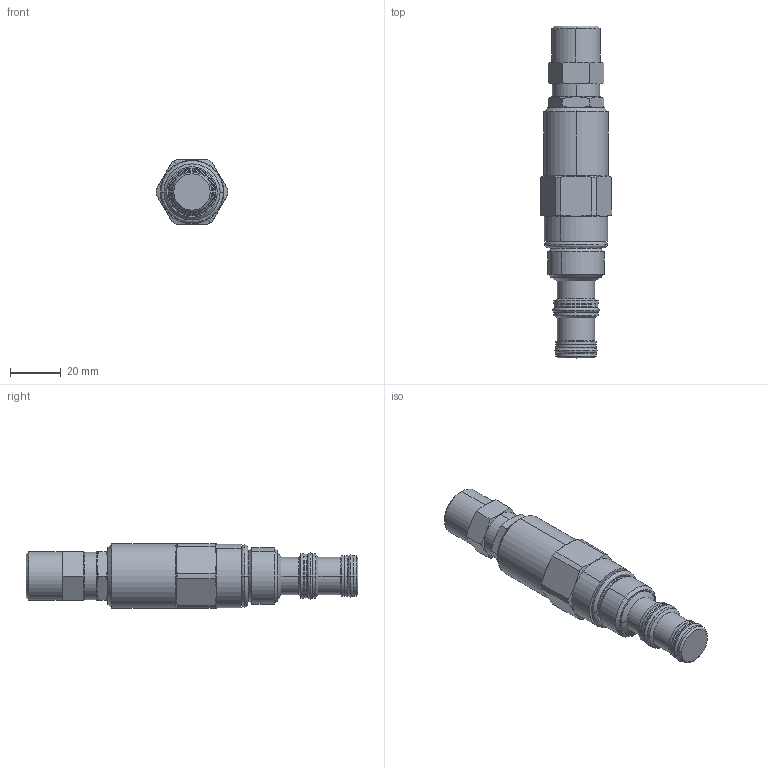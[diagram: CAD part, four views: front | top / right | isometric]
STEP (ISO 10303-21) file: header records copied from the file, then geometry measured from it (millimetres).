
FILE_DESCRIPTION((''),'2;1');
FILE_NAME('PRT0009','2009-03-24T',('jcs'),(''),'PRO/ENGINEER BY PARAMETRIC TECHNOLOGY CORPORATION, 2008510','PRO/ENGINEER BY PARAMETRIC TECHNOLOGY CORPORATION, 2008510','');
FILE_SCHEMA(('CONFIG_CONTROL_DESIGN'));
Length unit declared in the file: inch
Products named in the file (1): PRT0009
Bounding box: 28.19 x 130.89 x 25.4 mm (x, y, z)
Volume: 48165.8 mm3; surface area: 11860.7 mm2
Topology: 5 solids, 5 shells, 172 faces, 368 edges, 210 vertices
Faces by surface type: cone 46, cylinder 42, plane 32, torus 28, revolution 24
Entity records: 5462 total; most frequent: CARTESIAN_POINT 1730, DIRECTION 802, ORIENTED_EDGE 736, EDGE_CURVE 368, AXIS2_PLACEMENT_3D 346, VERTEX_POINT 210, CIRCLE 198, EDGE_LOOP 184
